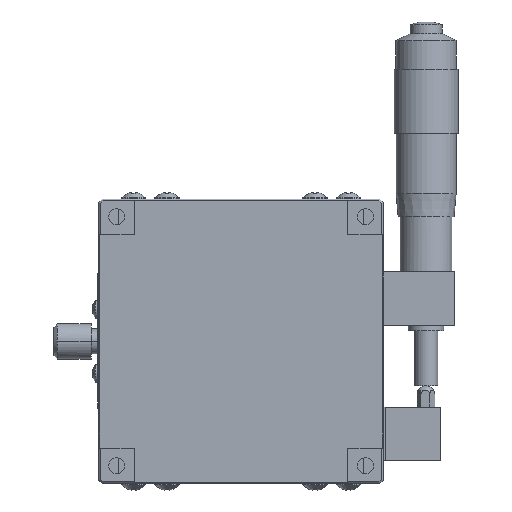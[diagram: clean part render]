
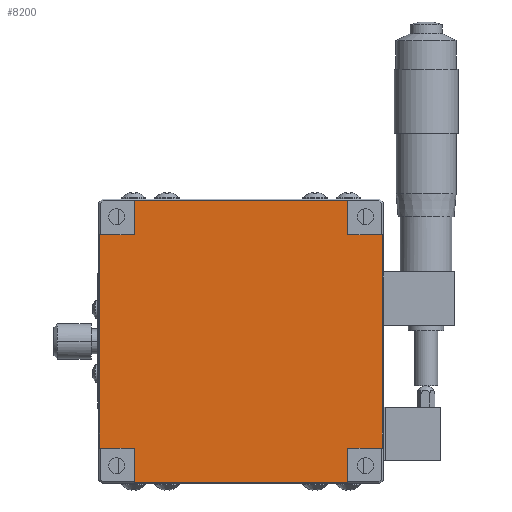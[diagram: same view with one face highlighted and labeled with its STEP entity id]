
A CAD part, front view. The second image highlights one B-rep face of the part: STEP entity #8200.
In plain terms, the highlighted planar face has unit normal (0, -1, 0).
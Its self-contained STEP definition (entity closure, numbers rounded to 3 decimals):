
#841 = EDGE_CURVE ( 'NONE', #18338, #18365, #6029, .T. ) ;
#2153 = VECTOR ( 'NONE', #6031, 1000. ) ;
#4198 = CARTESIAN_POINT ( 'NONE',  ( 59.46, 34.35, -39.7 ) ) ;
#4204 = CARTESIAN_POINT ( 'NONE',  ( 59.46, 34.35, 30. ) ) ;
#4205 = CARTESIAN_POINT ( 'NONE',  ( 49.76, 34.35, 30. ) ) ;
#4212 = CARTESIAN_POINT ( 'NONE',  ( 59.46, 34.35, -30. ) ) ;
#4213 = CARTESIAN_POINT ( 'NONE',  ( 129.16, 34.35, -30. ) ) ;
#4214 = CARTESIAN_POINT ( 'NONE',  ( 119.46, 34.35, -39.7 ) ) ;
#4219 = CARTESIAN_POINT ( 'NONE',  ( 129.16, 34.35, 30. ) ) ;
#4223 = CARTESIAN_POINT ( 'NONE',  ( 59.46, 34.35, 39.7 ) ) ;
#4228 = CARTESIAN_POINT ( 'NONE',  ( 49.76, 34.35, -30. ) ) ;
#4232 = CARTESIAN_POINT ( 'NONE',  ( 119.46, 34.35, -30. ) ) ;
#4246 = CARTESIAN_POINT ( 'NONE',  ( 119.46, 34.35, 30. ) ) ;
#4249 = CARTESIAN_POINT ( 'NONE',  ( 119.46, 34.35, 39.7 ) ) ;
#6029 = LINE ( 'NONE', #6030, #2153 ) ;
#6030 = CARTESIAN_POINT ( 'NONE',  ( 119.46, 34.35, 30. ) ) ;
#6031 = DIRECTION ( 'NONE',  ( -1., 0., 0. ) ) ;
#8200 = ADVANCED_FACE ( 'NONE', ( #19942 ), #19943, .T. ) ;
#8597 = EDGE_CURVE ( 'NONE', #18365, #18368, #9016, .T. ) ;
#8601 = EDGE_CURVE ( 'NONE', #18368, #18342, #9028, .T. ) ;
#8603 = EDGE_CURVE ( 'NONE', #18342, #18323, #9008, .T. ) ;
#8604 = EDGE_CURVE ( 'NONE', #18323, #18324, #9037, .T. ) ;
#8607 = EDGE_CURVE ( 'NONE', #18324, #18347, #9032, .T. ) ;
#8609 = EDGE_CURVE ( 'NONE', #18347, #18331, #9041, .T. ) ;
#8610 = EDGE_CURVE ( 'NONE', #18331, #18317, #9055, .T. ) ;
#8613 = EDGE_CURVE ( 'NONE', #18317, #18333, #9050, .T. ) ;
#8615 = EDGE_CURVE ( 'NONE', #18333, #18351, #9059, .T. ) ;
#8616 = EDGE_CURVE ( 'NONE', #18351, #18332, #9073, .T. ) ;
#8619 = EDGE_CURVE ( 'NONE', #18332, #18338, #9068, .T. ) ;
#9008 = LINE ( 'NONE', #9035, #13636 ) ;
#9016 = LINE ( 'NONE', #9017, #13634 ) ;
#9017 = CARTESIAN_POINT ( 'NONE',  ( 119.46, 34.35, 48.508 ) ) ;
#9018 = DIRECTION ( 'NONE',  ( 0., 0., 1. ) ) ;
#9028 = LINE ( 'NONE', #9029, #13638 ) ;
#9029 = CARTESIAN_POINT ( 'NONE',  ( 119.46, 34.35, 39.7 ) ) ;
#9030 = DIRECTION ( 'NONE',  ( -1., 0., 0. ) ) ;
#9032 = LINE ( 'NONE', #9047, #13643 ) ;
#9035 = CARTESIAN_POINT ( 'NONE',  ( 59.46, 34.35, 48.508 ) ) ;
#9036 = DIRECTION ( 'NONE',  ( 0., 0., -1. ) ) ;
#9037 = LINE ( 'NONE', #9038, #13641 ) ;
#9038 = CARTESIAN_POINT ( 'NONE',  ( 119.46, 34.35, 30. ) ) ;
#9039 = DIRECTION ( 'NONE',  ( -1., 0., 0. ) ) ;
#9041 = LINE ( 'NONE', #9053, #13644 ) ;
#9047 = CARTESIAN_POINT ( 'NONE',  ( 49.76, 34.35, 48.508 ) ) ;
#9048 = DIRECTION ( 'NONE',  ( 0., 0., -1. ) ) ;
#9050 = LINE ( 'NONE', #9065, #13649 ) ;
#9053 = CARTESIAN_POINT ( 'NONE',  ( 119.46, 34.35, -30. ) ) ;
#9054 = DIRECTION ( 'NONE',  ( 1., 0., 0. ) ) ;
#9055 = LINE ( 'NONE', #9056, #13647 ) ;
#9056 = CARTESIAN_POINT ( 'NONE',  ( 59.46, 34.35, 48.508 ) ) ;
#9057 = DIRECTION ( 'NONE',  ( 0., 0., -1. ) ) ;
#9059 = LINE ( 'NONE', #9071, #13650 ) ;
#9065 = CARTESIAN_POINT ( 'NONE',  ( 119.46, 34.35, -39.7 ) ) ;
#9066 = DIRECTION ( 'NONE',  ( 1., 0., 0. ) ) ;
#9068 = LINE ( 'NONE', #9082, #13655 ) ;
#9071 = CARTESIAN_POINT ( 'NONE',  ( 119.46, 34.35, 48.508 ) ) ;
#9072 = DIRECTION ( 'NONE',  ( 0., 0., 1. ) ) ;
#9073 = LINE ( 'NONE', #9074, #13653 ) ;
#9074 = CARTESIAN_POINT ( 'NONE',  ( 119.46, 34.35, -30. ) ) ;
#9075 = DIRECTION ( 'NONE',  ( 1., 0., 0. ) ) ;
#9082 = CARTESIAN_POINT ( 'NONE',  ( 129.16, 34.35, 48.508 ) ) ;
#9083 = DIRECTION ( 'NONE',  ( 0., 0., 1. ) ) ;
#12402 = EDGE_LOOP ( 'NONE', ( #18143, #18144, #18145, #18146, #18147, #18148, #18149, #18150, #18151, #18152, #18153, #18154 ) ) ;
#12542 = AXIS2_PLACEMENT_3D ( 'NONE', #19936, #19946, #19947 ) ;
#13634 = VECTOR ( 'NONE', #9018, 1000. ) ;
#13636 = VECTOR ( 'NONE', #9036, 1000. ) ;
#13638 = VECTOR ( 'NONE', #9030, 1000. ) ;
#13641 = VECTOR ( 'NONE', #9039, 1000. ) ;
#13643 = VECTOR ( 'NONE', #9048, 1000. ) ;
#13644 = VECTOR ( 'NONE', #9054, 1000. ) ;
#13647 = VECTOR ( 'NONE', #9057, 1000. ) ;
#13649 = VECTOR ( 'NONE', #9066, 1000. ) ;
#13650 = VECTOR ( 'NONE', #9072, 1000. ) ;
#13653 = VECTOR ( 'NONE', #9075, 1000. ) ;
#13655 = VECTOR ( 'NONE', #9083, 1000. ) ;
#18143 = ORIENTED_EDGE ( 'NONE', *, *, #8619, .T. ) ;
#18144 = ORIENTED_EDGE ( 'NONE', *, *, #841, .T. ) ;
#18145 = ORIENTED_EDGE ( 'NONE', *, *, #8597, .T. ) ;
#18146 = ORIENTED_EDGE ( 'NONE', *, *, #8601, .T. ) ;
#18147 = ORIENTED_EDGE ( 'NONE', *, *, #8603, .T. ) ;
#18148 = ORIENTED_EDGE ( 'NONE', *, *, #8604, .T. ) ;
#18149 = ORIENTED_EDGE ( 'NONE', *, *, #8607, .T. ) ;
#18150 = ORIENTED_EDGE ( 'NONE', *, *, #8609, .T. ) ;
#18151 = ORIENTED_EDGE ( 'NONE', *, *, #8610, .T. ) ;
#18152 = ORIENTED_EDGE ( 'NONE', *, *, #8613, .T. ) ;
#18153 = ORIENTED_EDGE ( 'NONE', *, *, #8615, .T. ) ;
#18154 = ORIENTED_EDGE ( 'NONE', *, *, #8616, .T. ) ;
#18317 = VERTEX_POINT ( 'NONE', #4198 ) ;
#18323 = VERTEX_POINT ( 'NONE', #4204 ) ;
#18324 = VERTEX_POINT ( 'NONE', #4205 ) ;
#18331 = VERTEX_POINT ( 'NONE', #4212 ) ;
#18332 = VERTEX_POINT ( 'NONE', #4213 ) ;
#18333 = VERTEX_POINT ( 'NONE', #4214 ) ;
#18338 = VERTEX_POINT ( 'NONE', #4219 ) ;
#18342 = VERTEX_POINT ( 'NONE', #4223 ) ;
#18347 = VERTEX_POINT ( 'NONE', #4228 ) ;
#18351 = VERTEX_POINT ( 'NONE', #4232 ) ;
#18365 = VERTEX_POINT ( 'NONE', #4246 ) ;
#18368 = VERTEX_POINT ( 'NONE', #4249 ) ;
#19936 = CARTESIAN_POINT ( 'NONE',  ( 119.46, 34.35, 48.508 ) ) ;
#19942 = FACE_OUTER_BOUND ( 'NONE', #12402, .T. ) ;
#19943 = PLANE ( 'NONE',  #12542 ) ;
#19946 = DIRECTION ( 'NONE',  ( 0., -1., 0. ) ) ;
#19947 = DIRECTION ( 'NONE',  ( 0., 0., -1. ) ) ;
